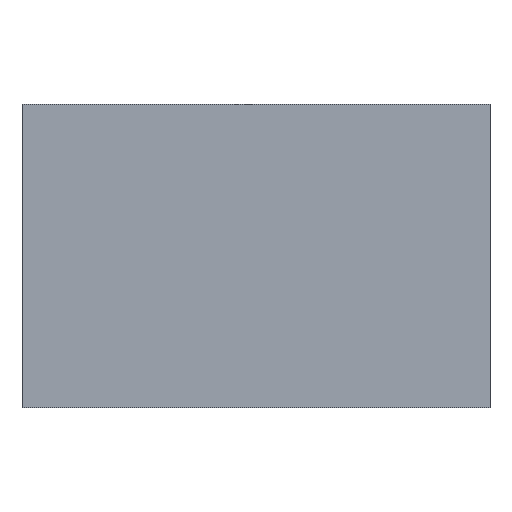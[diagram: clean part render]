
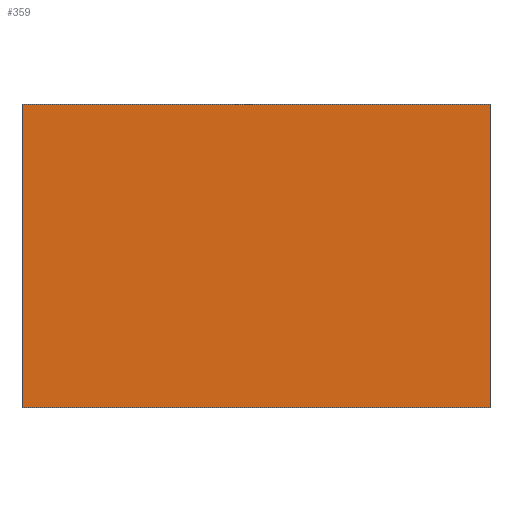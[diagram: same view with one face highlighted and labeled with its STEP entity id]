
A CAD part, left-side view. The second image highlights one B-rep face of the part: STEP entity #359.
In plain terms, the highlighted planar face has unit normal (-1, 0, 0).
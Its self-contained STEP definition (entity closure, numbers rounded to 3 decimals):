
#359=ADVANCED_FACE('',(#823),#825,.T.);
#823=FACE_BOUND('',#824,.T.);
#824=EDGE_LOOP('',(#1223,#1224,#1225,#1226));
#825=PLANE('',#826);
#826=AXIS2_PLACEMENT_3D('',#827,#828,#829);
#827=CARTESIAN_POINT('',(-71.,92.5,-60.));
#828=DIRECTION('',(-1.,0.,0.));
#829=DIRECTION('',(0.,-1.,0.));
#1223=ORIENTED_EDGE('',*,*,#1370,.T.);
#1224=ORIENTED_EDGE('',*,*,#1407,.T.);
#1225=ORIENTED_EDGE('',*,*,#1390,.F.);
#1226=ORIENTED_EDGE('',*,*,#1408,.F.);
#1370=EDGE_CURVE('',#1493,#1491,#1494,.T.);
#1390=EDGE_CURVE('',#1528,#1530,#1531,.T.);
#1407=EDGE_CURVE('',#1491,#1530,#1555,.T.);
#1408=EDGE_CURVE('',#1493,#1528,#1556,.T.);
#1491=VERTEX_POINT('',#1709);
#1493=VERTEX_POINT('',#1713);
#1494=LINE('',#1714,#1715);
#1528=VERTEX_POINT('',#1792);
#1530=VERTEX_POINT('',#1796);
#1531=LINE('',#1797,#1798);
#1555=LINE('',#1859,#1860);
#1556=LINE('',#1862,#1863);
#1709=CARTESIAN_POINT('',(-71.,-92.5,-60.));
#1713=CARTESIAN_POINT('',(-71.,92.5,-60.));
#1714=CARTESIAN_POINT('',(-71.,92.5,-60.));
#1715=VECTOR('',#1716,1.);
#1716=DIRECTION('',(0.,-1.,0.));
#1792=CARTESIAN_POINT('',(-71.,92.5,60.));
#1796=CARTESIAN_POINT('',(-71.,-92.5,60.));
#1797=CARTESIAN_POINT('',(-71.,92.5,60.));
#1798=VECTOR('',#1799,1.);
#1799=DIRECTION('',(0.,-1.,0.));
#1859=CARTESIAN_POINT('',(-71.,-92.5,-60.));
#1860=VECTOR('',#1861,1.);
#1861=DIRECTION('',(0.,0.,1.));
#1862=CARTESIAN_POINT('',(-71.,92.5,-60.));
#1863=VECTOR('',#1864,1.);
#1864=DIRECTION('',(0.,0.,1.));
